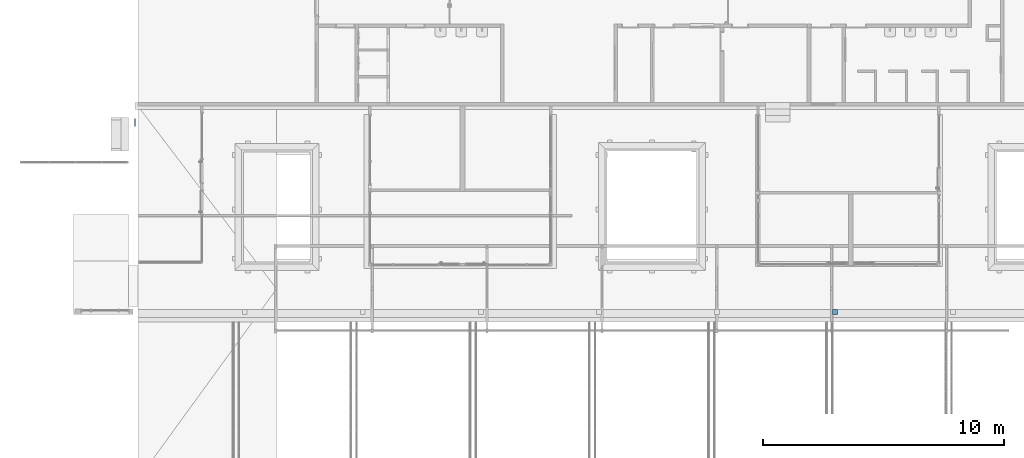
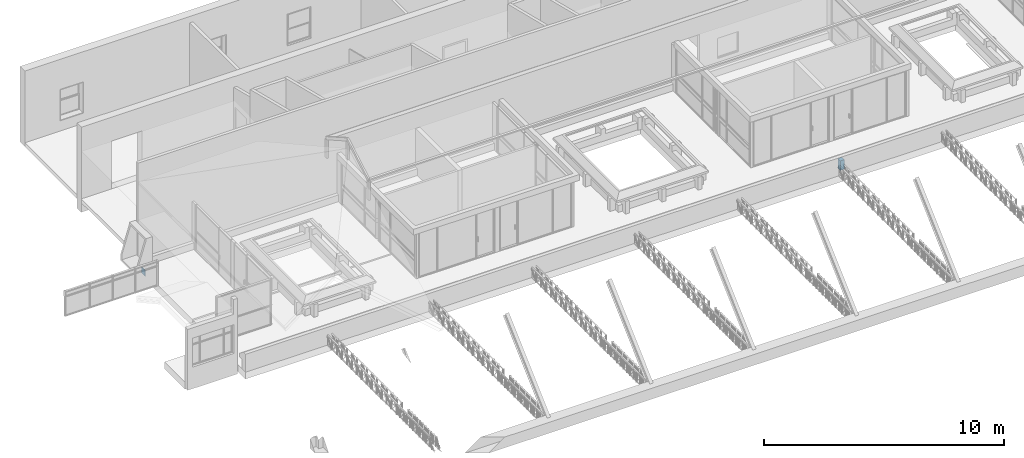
# One storey, part 124 of 153: 2 walls.
"""IFC4 building model written with IfcOpenShell, lengths in metres."""

from ifc_helpers import new_model, entity, si_unit, converted_unit, derived_unit, direction, frame, origin, place, context, subcontext, project, spatial, indexed_curve, outline, extrude, material, type_object, element, save


model = new_model("IFC4")

# Units and contexts
model_context = context("Model", 3, precision=1e-05, world=origin(), true_north=direction((6.123031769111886e-17, 1.0)))
body_context = subcontext(model_context, "Body", "Model", "MODEL_VIEW")
ifc_project = project(units=[si_unit("LENGTHUNIT", "METRE"), si_unit("AREAUNIT", "SQUARE_METRE"), si_unit("VOLUMEUNIT", "CUBIC_METRE"), converted_unit("PLANEANGLEUNIT", "DEGREE", entity("IfcRatioMeasure", 0.017453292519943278), si_unit("PLANEANGLEUNIT", "RADIAN"), dimensions=[0, 0, 0, 0, 0, 0, 0]), si_unit("MASSUNIT", "GRAM", prefix="KILO"), derived_unit("MASSDENSITYUNIT", [(si_unit("MASSUNIT", "GRAM", prefix="KILO"), 1), (si_unit("LENGTHUNIT", "METRE"), -3)]), derived_unit("MOMENTOFINERTIAUNIT", [(si_unit("LENGTHUNIT", "METRE"), 4)]), si_unit("TIMEUNIT", "SECOND"), si_unit("FREQUENCYUNIT", "HERTZ"), si_unit("THERMODYNAMICTEMPERATUREUNIT", "DEGREE_CELSIUS"), derived_unit("THERMALTRANSMITTANCEUNIT", [(si_unit("MASSUNIT", "GRAM", prefix="KILO"), 1), (si_unit("THERMODYNAMICTEMPERATUREUNIT", "KELVIN"), -1), (si_unit("TIMEUNIT", "SECOND"), -3)]), derived_unit("VOLUMETRICFLOWRATEUNIT", [(si_unit("LENGTHUNIT", "METRE"), 3), (si_unit("TIMEUNIT", "SECOND"), -1)]), derived_unit("MASSFLOWRATEUNIT", [(si_unit("MASSUNIT", "GRAM", prefix="KILO"), 1), (si_unit("TIMEUNIT", "SECOND"), -1)]), derived_unit("ROTATIONALFREQUENCYUNIT", [(si_unit("TIMEUNIT", "SECOND"), -1)]), si_unit("ELECTRICCURRENTUNIT", "AMPERE"), si_unit("ELECTRICVOLTAGEUNIT", "VOLT"), si_unit("POWERUNIT", "WATT"), si_unit("FORCEUNIT", "NEWTON", prefix="KILO"), si_unit("ILLUMINANCEUNIT", "LUX"), si_unit("LUMINOUSFLUXUNIT", "LUMEN"), si_unit("LUMINOUSINTENSITYUNIT", "CANDELA"), derived_unit("USERDEFINED", [(si_unit("MASSUNIT", "GRAM", prefix="KILO"), -1), (si_unit("LENGTHUNIT", "METRE"), -2), (si_unit("TIMEUNIT", "SECOND"), 3), (si_unit("LUMINOUSFLUXUNIT", "LUMEN"), 1)]), derived_unit("SOUNDPOWERUNIT", [(si_unit("MASSUNIT", "GRAM", prefix="KILO"), 1), (si_unit("LENGTHUNIT", "METRE"), 2), (si_unit("TIMEUNIT", "SECOND"), -3)]), derived_unit("SOUNDPRESSUREUNIT", [(si_unit("MASSUNIT", "GRAM", prefix="KILO"), 1), (si_unit("LENGTHUNIT", "METRE"), -1), (si_unit("TIMEUNIT", "SECOND"), -2)]), derived_unit("LINEARVELOCITYUNIT", [(si_unit("LENGTHUNIT", "METRE"), 1), (si_unit("TIMEUNIT", "SECOND"), -1)]), si_unit("PRESSUREUNIT", "PASCAL"), derived_unit("USERDEFINED", [(si_unit("LENGTHUNIT", "METRE"), -2), (si_unit("MASSUNIT", "GRAM", prefix="KILO"), 1), (si_unit("TIMEUNIT", "SECOND"), -2)]), derived_unit("LINEARFORCEUNIT", [(si_unit("MASSUNIT", "GRAM", prefix="KILO"), 1), (si_unit("LENGTHUNIT", "METRE"), 1), (si_unit("TIMEUNIT", "SECOND"), -2), (si_unit("LENGTHUNIT", "METRE"), -1)]), derived_unit("PLANARFORCEUNIT", [(si_unit("MASSUNIT", "GRAM", prefix="KILO"), 1), (si_unit("LENGTHUNIT", "METRE"), 1), (si_unit("TIMEUNIT", "SECOND"), -2), (si_unit("LENGTHUNIT", "METRE"), -2)])], contexts=[model_context])

# Site, building, storey
site_placement = place(None, origin())
site = spatial("IfcSite", under=ifc_project, at=site_placement, Name="Superficie", CompositionType="ELEMENT")
building_placement = place(site_placement, origin())
building = spatial("IfcBuilding", under=site, at=building_placement, CompositionType="ELEMENT")
storey_placement = place(building_placement, frame((0.0, 0.0, 3.5999999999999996)))
storey = spatial("IfcBuildingStorey", under=building, at=storey_placement, Name="Nivel 1", CompositionType="ELEMENT", Elevation=3.5999999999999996)

# Walls
ifc_material = material(Name="Muro por defecto", Category="Varios")
wall_type_1 = type_object("IfcWallType", Name="Muro básico:Por defecto - 20 cm", PredefinedType="STANDARD")
wall_1_placement = place(storey_placement, frame((6.28679901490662, -3.0336067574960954, 0.0), z_axis=(0.0, 0.0, 1.0), x_axis=(0.0, 1.0, 0.0)))
element("IfcWall", 1, at=wall_1_placement, inside=storey, type_object=wall_type_1, material=ifc_material, Name="Muro básico:Por defecto - 20 cm", ObjectType="Muro básico:Por defecto - 20 cm", PredefinedType="NOTDEFINED", context=body_context, shape_type="SweptSolid", body=[
    extrude(outline(indexed_curve([(0.20999999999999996, 0.1), (5.156510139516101e-17, 0.1), (-5.156510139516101e-17, -0.1), (0.20999999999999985, -0.1), (0.20999999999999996, 0.1)], self_intersect=False)), origin(), (0.0, 0.0, 1.0), 0.49000000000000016),
])
wall_type_2 = type_object("IfcWallType", Name="Muro básico:Por defecto - 30 cm", PredefinedType="STANDARD")
wall_2_placement = place(storey_placement, frame((-22.788200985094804, 4.937083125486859, 0.0)))
element("IfcWall", 2, at=wall_2_placement, inside=storey, type_object=wall_type_2, material=ifc_material, Name="Muro básico:Por defecto - 30 cm", ObjectType="Muro básico:Por defecto - 30 cm", PredefinedType="NOTDEFINED", context=body_context, shape_type="SweptSolid", body=[
    extrude(outline(indexed_curve([(0.02499999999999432, 0.15000000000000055), (0.0, 0.15000000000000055), (0.0, -0.15000000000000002), (0.02499999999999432, -0.15000000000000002), (0.02499999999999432, 0.15000000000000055)], self_intersect=False)), origin(), (0.0, 0.0, 1.0), 0.30000000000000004),
])

save(model, "model.ifc")
